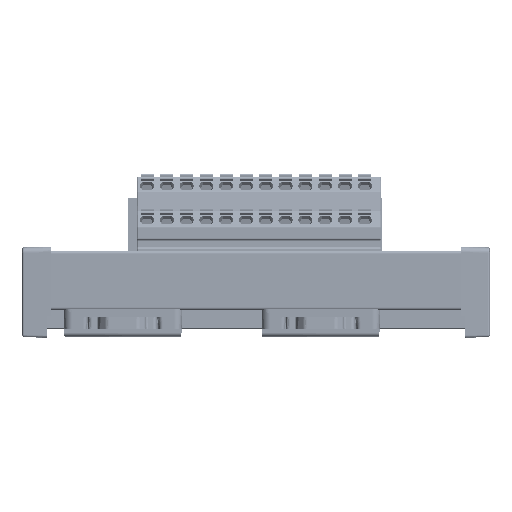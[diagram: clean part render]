
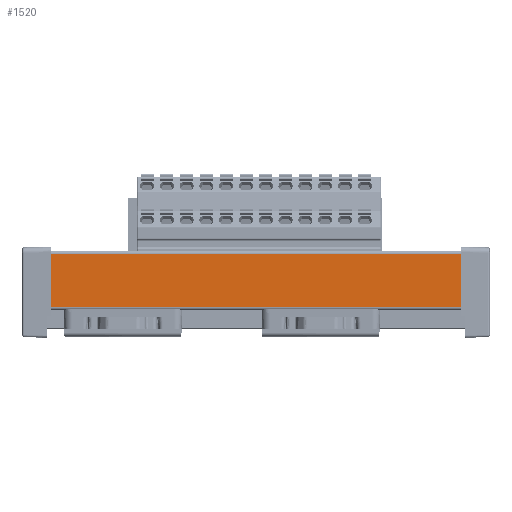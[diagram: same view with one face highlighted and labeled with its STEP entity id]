
A CAD part, front view. The second image highlights one B-rep face of the part: STEP entity #1520.
In plain terms, the highlighted planar face has unit normal (0, -1, 0).
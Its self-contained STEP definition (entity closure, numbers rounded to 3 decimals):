
#10=DIRECTION('',(1.,0.,0.));
#11=VECTOR('',#10,105.6);
#12=CARTESIAN_POINT('',(-18.8,-42.,-12.35));
#13=LINE('',#12,#11);
#14=DIRECTION('',(1.,0.,0.));
#15=VECTOR('',#14,105.6);
#16=CARTESIAN_POINT('',(-18.8,-42.,1.15));
#17=LINE('',#16,#15);
#18=DIRECTION('',(0.,0.,-1.));
#19=VECTOR('',#18,13.5);
#20=CARTESIAN_POINT('',(-18.8,-42.,1.15));
#21=LINE('',#20,#19);
#459=DIRECTION('',(0.,0.,-1.));
#460=VECTOR('',#459,13.5);
#461=CARTESIAN_POINT('',(86.8,-42.,1.15));
#462=LINE('',#461,#460);
#1136=CARTESIAN_POINT('',(-18.8,-42.,-12.35));
#1137=VERTEX_POINT('',#1136);
#1138=CARTESIAN_POINT('',(-18.8,-42.,1.15));
#1139=VERTEX_POINT('',#1138);
#1326=CARTESIAN_POINT('',(86.8,-42.,1.15));
#1327=VERTEX_POINT('',#1326);
#1328=CARTESIAN_POINT('',(86.8,-42.,-12.35));
#1329=VERTEX_POINT('',#1328);
#1506=CARTESIAN_POINT('',(-28.101,-42.,-12.8));
#1507=DIRECTION('',(0.,1.,0.));
#1508=DIRECTION('',(-1.,0.,0.));
#1509=AXIS2_PLACEMENT_3D('',#1506,#1507,#1508);
#1510=PLANE('',#1509);
#1512=ORIENTED_EDGE('',*,*,#1511,.T.);
#1514=ORIENTED_EDGE('',*,*,#1513,.T.);
#1515=ORIENTED_EDGE('',*,*,#1496,.F.);
#1517=ORIENTED_EDGE('',*,*,#1516,.F.);
#1518=EDGE_LOOP('',(#1512,#1514,#1515,#1517));
#1519=FACE_OUTER_BOUND('',#1518,.F.);
#1520=ADVANCED_FACE('',(#1519),#1510,.F.);
#1496=EDGE_CURVE('',#1137,#1329,#13,.T.);
#1511=EDGE_CURVE('',#1139,#1327,#17,.T.);
#1513=EDGE_CURVE('',#1327,#1329,#462,.T.);
#1516=EDGE_CURVE('',#1139,#1137,#21,.T.);
